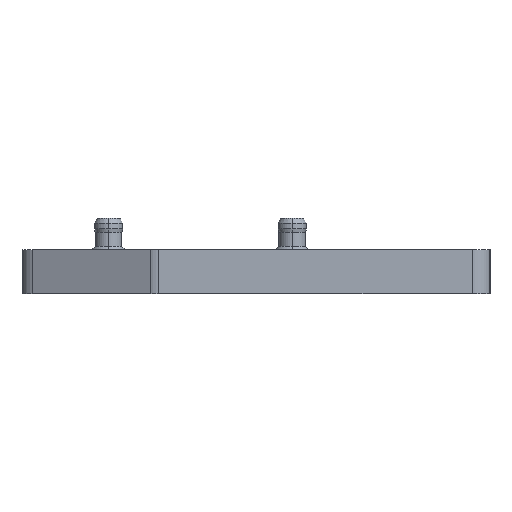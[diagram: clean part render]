
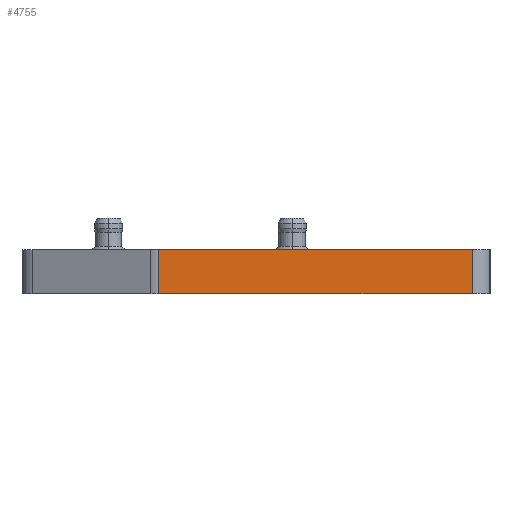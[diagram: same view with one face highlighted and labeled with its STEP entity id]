
A CAD part, left-side view. The second image highlights one B-rep face of the part: STEP entity #4755.
In plain terms, the highlighted planar face has unit normal (-1, 0, 0).
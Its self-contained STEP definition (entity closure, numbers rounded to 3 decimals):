
#12 = FACE_OUTER_BOUND ( 'NONE', #3258, .T. ) ;
#36 = VERTEX_POINT ( 'NONE', #3565 ) ;
#120 = DIRECTION ( 'NONE',  ( 0., 0., -1. ) ) ;
#137 = DIRECTION ( 'NONE',  ( 0., 0., -1. ) ) ;
#591 = CARTESIAN_POINT ( 'NONE',  ( -37.7, 19., 0. ) ) ;
#647 = DIRECTION ( 'NONE',  ( 0., -1., 0. ) ) ;
#877 = ORIENTED_EDGE ( 'NONE', *, *, #4834, .T. ) ;
#905 = VECTOR ( 'NONE', #137, 1000. ) ;
#911 = PLANE ( 'NONE',  #4889 ) ;
#1147 = CARTESIAN_POINT ( 'NONE',  ( -37.7, 18.778, 0. ) ) ;
#1309 = VERTEX_POINT ( 'NONE', #1147 ) ;
#1394 = CARTESIAN_POINT ( 'NONE',  ( -37.7, 18.778, 2.5 ) ) ;
#1631 = VERTEX_POINT ( 'NONE', #4916 ) ;
#1708 = ORIENTED_EDGE ( 'NONE', *, *, #3931, .F. ) ;
#1725 = CARTESIAN_POINT ( 'NONE',  ( -37.7, 19., 2.5 ) ) ;
#1830 = CARTESIAN_POINT ( 'NONE',  ( -37.7, 1., 0. ) ) ;
#2544 = ORIENTED_EDGE ( 'NONE', *, *, #4627, .T. ) ;
#2833 = VECTOR ( 'NONE', #4959, 1000. ) ;
#2877 = LINE ( 'NONE', #3989, #4708 ) ;
#3258 = EDGE_LOOP ( 'NONE', ( #4978, #2544, #1708, #877 ) ) ;
#3565 = CARTESIAN_POINT ( 'NONE',  ( -37.7, 18.778, 2.5 ) ) ;
#3712 = CARTESIAN_POINT ( 'NONE',  ( -37.7, 19., 2.5 ) ) ;
#3886 = VECTOR ( 'NONE', #647, 1000. ) ;
#3931 = EDGE_CURVE ( 'NONE', #36, #1631, #5254, .T. ) ;
#3989 = CARTESIAN_POINT ( 'NONE',  ( -37.7, 1., 2.5 ) ) ;
#4321 = LINE ( 'NONE', #591, #3886 ) ;
#4390 = EDGE_CURVE ( 'NONE', #1309, #4439, #4321, .T. ) ;
#4439 = VERTEX_POINT ( 'NONE', #1830 ) ;
#4627 = EDGE_CURVE ( 'NONE', #4439, #1631, #2877, .T. ) ;
#4703 = LINE ( 'NONE', #1394, #905 ) ;
#4708 = VECTOR ( 'NONE', #4879, 1000. ) ;
#4755 = ADVANCED_FACE ( 'NONE', ( #12 ), #911, .F. ) ;
#4834 = EDGE_CURVE ( 'NONE', #36, #1309, #4703, .T. ) ;
#4879 = DIRECTION ( 'NONE',  ( 0., 0., 1. ) ) ;
#4889 = AXIS2_PLACEMENT_3D ( 'NONE', #1725, #5060, #120 ) ;
#4916 = CARTESIAN_POINT ( 'NONE',  ( -37.7, 1., 2.5 ) ) ;
#4959 = DIRECTION ( 'NONE',  ( 0., -1., 0. ) ) ;
#4978 = ORIENTED_EDGE ( 'NONE', *, *, #4390, .T. ) ;
#5060 = DIRECTION ( 'NONE',  ( 1., 0., 0. ) ) ;
#5254 = LINE ( 'NONE', #3712, #2833 ) ;
